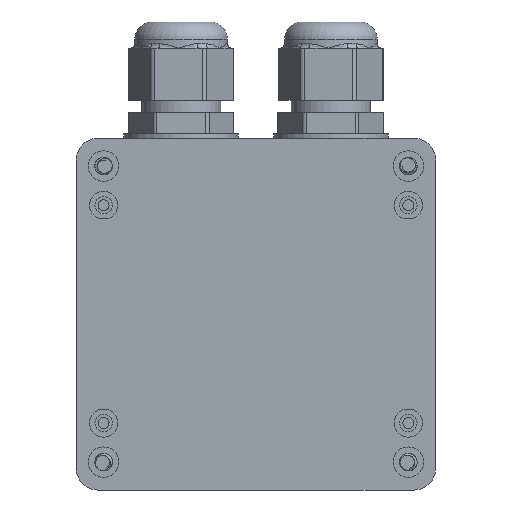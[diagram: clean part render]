
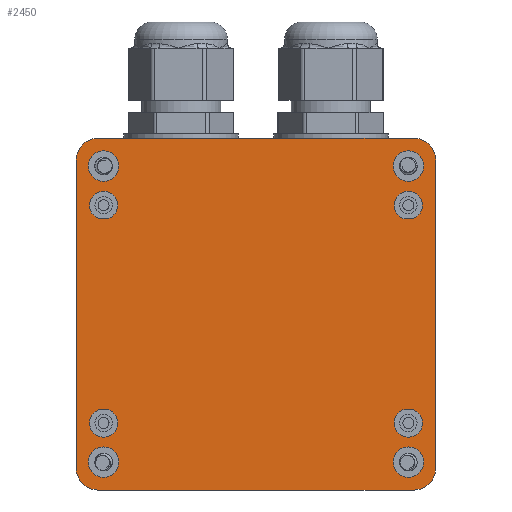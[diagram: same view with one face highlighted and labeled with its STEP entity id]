
A CAD part, front view. The second image highlights one B-rep face of the part: STEP entity #2450.
In plain terms, the highlighted planar face has unit normal (0, -1, 0).
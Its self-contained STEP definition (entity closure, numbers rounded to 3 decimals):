
#2450=ADVANCED_FACE('',(#12239,#12241,#12243,#12245,#12247,#12249,#12251,#12253,
#12255),#12257,.F.);
#12239=FACE_BOUND('',#12240,.T.);
#12240=EDGE_LOOP('',(#61056,#61057,#61058,#61059,#61060,#61061,#61062,#61063));
#12241=FACE_BOUND('',#12242,.T.);
#12242=EDGE_LOOP('',(#61064));
#12243=FACE_BOUND('',#12244,.T.);
#12244=EDGE_LOOP('',(#61065));
#12245=FACE_BOUND('',#12246,.T.);
#12246=EDGE_LOOP('',(#61066,#61067));
#12247=FACE_BOUND('',#12248,.T.);
#12248=EDGE_LOOP('',(#61068,#61069));
#12249=FACE_BOUND('',#12250,.T.);
#12250=EDGE_LOOP('',(#61070,#61071));
#12251=FACE_BOUND('',#12252,.T.);
#12252=EDGE_LOOP('',(#61072,#61073));
#12253=FACE_BOUND('',#12254,.T.);
#12254=EDGE_LOOP('',(#61074));
#12255=FACE_BOUND('',#12256,.T.);
#12256=EDGE_LOOP('',(#61075));
#12257=PLANE('',#12258);
#12258=AXIS2_PLACEMENT_3D('',#12259,#12260,#12261);
#12259=CARTESIAN_POINT('',(0.,0.,0.));
#12260=DIRECTION('',(-0.,1.,0.));
#12261=DIRECTION('',(1.,0.,0.));
#61056=ORIENTED_EDGE('',*,*,#104574,.F.);
#61057=ORIENTED_EDGE('',*,*,#104575,.F.);
#61058=ORIENTED_EDGE('',*,*,#104576,.F.);
#61059=ORIENTED_EDGE('',*,*,#104577,.F.);
#61060=ORIENTED_EDGE('',*,*,#104578,.F.);
#61061=ORIENTED_EDGE('',*,*,#104563,.F.);
#61062=ORIENTED_EDGE('',*,*,#104579,.F.);
#61063=ORIENTED_EDGE('',*,*,#104580,.F.);
#61064=ORIENTED_EDGE('',*,*,#104581,.T.);
#61065=ORIENTED_EDGE('',*,*,#104582,.T.);
#61066=ORIENTED_EDGE('',*,*,#104583,.F.);
#61067=ORIENTED_EDGE('',*,*,#104584,.F.);
#61068=ORIENTED_EDGE('',*,*,#104585,.F.);
#61069=ORIENTED_EDGE('',*,*,#104586,.F.);
#61070=ORIENTED_EDGE('',*,*,#104587,.F.);
#61071=ORIENTED_EDGE('',*,*,#104588,.F.);
#61072=ORIENTED_EDGE('',*,*,#104589,.F.);
#61073=ORIENTED_EDGE('',*,*,#104590,.F.);
#61074=ORIENTED_EDGE('',*,*,#104591,.T.);
#61075=ORIENTED_EDGE('',*,*,#104592,.T.);
#104563=EDGE_CURVE('',#123686,#123689,#123690,.T.);
#104574=EDGE_CURVE('',#123710,#123711,#123712,.F.);
#104575=EDGE_CURVE('',#123713,#123710,#123714,.T.);
#104576=EDGE_CURVE('',#123715,#123713,#123716,.F.);
#104577=EDGE_CURVE('',#123717,#123715,#123718,.T.);
#104578=EDGE_CURVE('',#123689,#123717,#123719,.F.);
#104579=EDGE_CURVE('',#123720,#123686,#123721,.F.);
#104580=EDGE_CURVE('',#123711,#123720,#123722,.T.);
#104581=EDGE_CURVE('',#123723,#123723,#123724,.T.);
#104582=EDGE_CURVE('',#123725,#123725,#123726,.T.);
#104583=EDGE_CURVE('',#123727,#123728,#123729,.F.);
#104584=EDGE_CURVE('',#123728,#123727,#123730,.F.);
#104585=EDGE_CURVE('',#123731,#123732,#123733,.F.);
#104586=EDGE_CURVE('',#123732,#123731,#123734,.F.);
#104587=EDGE_CURVE('',#123735,#123736,#123737,.F.);
#104588=EDGE_CURVE('',#123736,#123735,#123738,.F.);
#104589=EDGE_CURVE('',#123739,#123740,#123741,.F.);
#104590=EDGE_CURVE('',#123740,#123739,#123742,.F.);
#104591=EDGE_CURVE('',#123743,#123743,#123744,.T.);
#104592=EDGE_CURVE('',#123745,#123745,#123746,.T.);
#123686=VERTEX_POINT('',#155597);
#123689=VERTEX_POINT('',#155602);
#123690=LINE('',#155603,#155604);
#123710=VERTEX_POINT('',#155649);
#123711=VERTEX_POINT('',#155650);
#123712=CIRCLE('',#155651,5.);
#123713=VERTEX_POINT('',#155655);
#123714=LINE('',#155656,#155657);
#123715=VERTEX_POINT('',#155659);
#123716=CIRCLE('',#155660,5.);
#123717=VERTEX_POINT('',#155664);
#123718=LINE('',#155665,#155666);
#123719=CIRCLE('',#155668,5.);
#123720=VERTEX_POINT('',#155672);
#123721=CIRCLE('',#155673,5.);
#123722=LINE('',#155677,#155678);
#123723=VERTEX_POINT('',#155680);
#123724=CIRCLE('',#155681,3.5);
#123725=VERTEX_POINT('',#155685);
#123726=CIRCLE('',#155686,3.5);
#123727=VERTEX_POINT('',#155690);
#123728=VERTEX_POINT('',#155691);
#123729=LINE('',#155692,#155693);
#123730=CIRCLE('',#155695,3.25);
#123731=VERTEX_POINT('',#155699);
#123732=VERTEX_POINT('',#155700);
#123733=LINE('',#155701,#155702);
#123734=CIRCLE('',#155704,3.25);
#123735=VERTEX_POINT('',#155708);
#123736=VERTEX_POINT('',#155709);
#123737=LINE('',#155710,#155711);
#123738=CIRCLE('',#155713,3.25);
#123739=VERTEX_POINT('',#155717);
#123740=VERTEX_POINT('',#155718);
#123741=LINE('',#155719,#155720);
#123742=CIRCLE('',#155722,3.25);
#123743=VERTEX_POINT('',#155726);
#123744=CIRCLE('',#155727,3.5);
#123745=VERTEX_POINT('',#155731);
#123746=CIRCLE('',#155732,3.5);
#155597=CARTESIAN_POINT('',(5.,0.,0.));
#155602=CARTESIAN_POINT('',(77.6,0.,0.));
#155603=CARTESIAN_POINT('',(5.,0.,0.));
#155604=VECTOR('',#155605,1.);
#155605=DIRECTION('',(1.,0.,0.));
#155649=CARTESIAN_POINT('',(5.,0.,-80.8));
#155650=CARTESIAN_POINT('',(0.,0.,-75.8));
#155651=AXIS2_PLACEMENT_3D('',#155652,#155653,#155654);
#155652=CARTESIAN_POINT('',(5.,0.,-75.8));
#155653=DIRECTION('',(0.,-1.,0.));
#155654=DIRECTION('',(-1.,0.,0.));
#155655=CARTESIAN_POINT('',(77.6,0.,-80.8));
#155656=CARTESIAN_POINT('',(77.6,0.,-80.8));
#155657=VECTOR('',#155658,1.);
#155658=DIRECTION('',(-1.,0.,0.));
#155659=CARTESIAN_POINT('',(82.6,0.,-75.8));
#155660=AXIS2_PLACEMENT_3D('',#155661,#155662,#155663);
#155661=CARTESIAN_POINT('',(77.6,0.,-75.8));
#155662=DIRECTION('',(0.,-1.,0.));
#155663=DIRECTION('',(0.,0.,-1.));
#155664=CARTESIAN_POINT('',(82.6,0.,-5.));
#155665=CARTESIAN_POINT('',(82.6,0.,-5.));
#155666=VECTOR('',#155667,1.);
#155667=DIRECTION('',(0.,0.,-1.));
#155668=AXIS2_PLACEMENT_3D('',#155669,#155670,#155671);
#155669=CARTESIAN_POINT('',(77.6,0.,-5.));
#155670=DIRECTION('',(0.,-1.,0.));
#155671=DIRECTION('',(1.,0.,0.));
#155672=CARTESIAN_POINT('',(0.,0.,-5.));
#155673=AXIS2_PLACEMENT_3D('',#155674,#155675,#155676);
#155674=CARTESIAN_POINT('',(5.,0.,-5.));
#155675=DIRECTION('',(0.,-1.,0.));
#155676=DIRECTION('',(0.,0.,1.));
#155677=CARTESIAN_POINT('',(0.,0.,-75.8));
#155678=VECTOR('',#155679,1.);
#155679=DIRECTION('',(0.,0.,1.));
#155680=CARTESIAN_POINT('',(79.8,0.,-74.4));
#155681=AXIS2_PLACEMENT_3D('',#155682,#155683,#155684);
#155682=CARTESIAN_POINT('',(76.3,0.,-74.4));
#155683=DIRECTION('',(-0.,1.,0.));
#155684=DIRECTION('',(1.,0.,0.));
#155685=CARTESIAN_POINT('',(79.8,0.,-6.4));
#155686=AXIS2_PLACEMENT_3D('',#155687,#155688,#155689);
#155687=CARTESIAN_POINT('',(76.3,0.,-6.4));
#155688=DIRECTION('',(-0.,1.,0.));
#155689=DIRECTION('',(1.,0.,0.));
#155690=CARTESIAN_POINT('',(5.324,0.,-18.5));
#155691=CARTESIAN_POINT('',(7.276,0.,-18.5));
#155692=CARTESIAN_POINT('',(7.276,0.,-18.5));
#155693=VECTOR('',#155694,1.);
#155694=DIRECTION('',(-1.,0.,0.));
#155695=AXIS2_PLACEMENT_3D('',#155696,#155697,#155698);
#155696=CARTESIAN_POINT('',(6.3,0.,-15.4));
#155697=DIRECTION('',(0.,1.,0.));
#155698=DIRECTION('',(-0.3,0.,-0.954));
#155699=CARTESIAN_POINT('',(77.276,0.,-62.3));
#155700=CARTESIAN_POINT('',(75.324,0.,-62.3));
#155701=CARTESIAN_POINT('',(75.324,0.,-62.3));
#155702=VECTOR('',#155703,1.);
#155703=DIRECTION('',(1.,0.,0.));
#155704=AXIS2_PLACEMENT_3D('',#155705,#155706,#155707);
#155705=CARTESIAN_POINT('',(76.3,0.,-65.4));
#155706=DIRECTION('',(0.,1.,0.));
#155707=DIRECTION('',(0.3,0.,0.954));
#155708=CARTESIAN_POINT('',(7.276,0.,-62.3));
#155709=CARTESIAN_POINT('',(5.324,0.,-62.3));
#155710=CARTESIAN_POINT('',(5.324,0.,-62.3));
#155711=VECTOR('',#155712,1.);
#155712=DIRECTION('',(1.,0.,0.));
#155713=AXIS2_PLACEMENT_3D('',#155714,#155715,#155716);
#155714=CARTESIAN_POINT('',(6.3,0.,-65.4));
#155715=DIRECTION('',(0.,1.,0.));
#155716=DIRECTION('',(0.3,0.,0.954));
#155717=CARTESIAN_POINT('',(75.324,0.,-18.5));
#155718=CARTESIAN_POINT('',(77.276,0.,-18.5));
#155719=CARTESIAN_POINT('',(77.276,0.,-18.5));
#155720=VECTOR('',#155721,1.);
#155721=DIRECTION('',(-1.,0.,0.));
#155722=AXIS2_PLACEMENT_3D('',#155723,#155724,#155725);
#155723=CARTESIAN_POINT('',(76.3,0.,-15.4));
#155724=DIRECTION('',(0.,1.,0.));
#155725=DIRECTION('',(-0.3,0.,-0.954));
#155726=CARTESIAN_POINT('',(9.8,0.,-74.4));
#155727=AXIS2_PLACEMENT_3D('',#155728,#155729,#155730);
#155728=CARTESIAN_POINT('',(6.3,0.,-74.4));
#155729=DIRECTION('',(-0.,1.,0.));
#155730=DIRECTION('',(1.,0.,0.));
#155731=CARTESIAN_POINT('',(9.8,0.,-6.4));
#155732=AXIS2_PLACEMENT_3D('',#155733,#155734,#155735);
#155733=CARTESIAN_POINT('',(6.3,0.,-6.4));
#155734=DIRECTION('',(-0.,1.,0.));
#155735=DIRECTION('',(1.,0.,0.));
